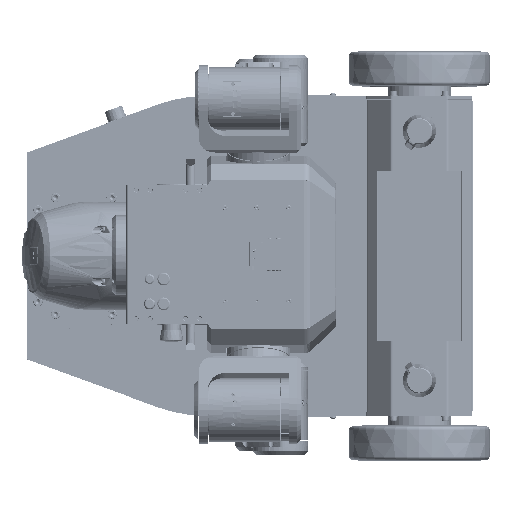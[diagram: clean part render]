
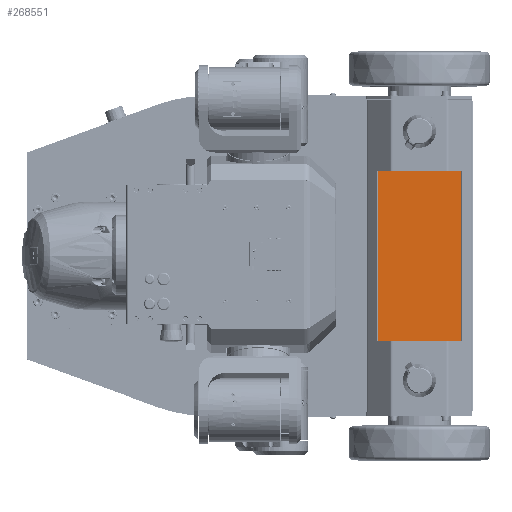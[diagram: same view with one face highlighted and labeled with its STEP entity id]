
A CAD part, top view. The second image highlights one B-rep face of the part: STEP entity #268551.
In plain terms, the highlighted planar face has unit normal (0, 0, 1).
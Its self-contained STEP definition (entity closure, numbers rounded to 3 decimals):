
#11955=PLANE('',#287177);
#22137=FACE_OUTER_BOUND('',#37791,.T.);
#37791=EDGE_LOOP('',(#181497,#181498,#181499,#181500));
#53520=LINE('',#423826,#74377);
#53521=LINE('',#423828,#74378);
#53536=LINE('',#423869,#74393);
#55496=LINE('',#437118,#76353);
#74377=VECTOR('',#313121,1.);
#74378=VECTOR('',#313124,1.);
#74393=VECTOR('',#313159,1.);
#76353=VECTOR('',#320185,1.);
#107483=VERTEX_POINT('',#423790);
#107488=VERTEX_POINT('',#423800);
#107491=VERTEX_POINT('',#423807);
#107492=VERTEX_POINT('',#423810);
#133649=EDGE_CURVE('',#107483,#107491,#53520,.T.);
#133650=EDGE_CURVE('',#107488,#107492,#53521,.T.);
#133671=EDGE_CURVE('',#107492,#107491,#53536,.T.);
#137316=EDGE_CURVE('',#107483,#107488,#55496,.T.);
#181497=ORIENTED_EDGE('',*,*,#133671,.F.);
#181498=ORIENTED_EDGE('',*,*,#133650,.F.);
#181499=ORIENTED_EDGE('',*,*,#137316,.F.);
#181500=ORIENTED_EDGE('',*,*,#133649,.T.);
#268551=ADVANCED_FACE('',(#22137),#11955,.F.);
#287177=AXIS2_PLACEMENT_3D('',#437659,#320323,#320324);
#313121=DIRECTION('',(0.,1.,0.));
#313124=DIRECTION('',(0.,1.,0.));
#313159=DIRECTION('',(1.,0.,0.));
#320185=DIRECTION('',(-1.,0.,0.));
#320323=DIRECTION('center_axis',(0.,0.,
-1.));
#320324=DIRECTION('ref_axis',(0.,-1.,0.));
#423790=CARTESIAN_POINT('',(534.149,-120.5,-89.349));
#423800=CARTESIAN_POINT('',(415.851,-120.5,-89.349));
#423807=CARTESIAN_POINT('',(534.148,120.5,-89.349));
#423810=CARTESIAN_POINT('',(415.852,120.5,-89.349));
#423826=CARTESIAN_POINT('',(534.149,-60.25,-89.349));
#423828=CARTESIAN_POINT('',(415.851,-60.25,-89.349));
#423869=CARTESIAN_POINT('',(474.999,120.5,-89.349));
#437118=CARTESIAN_POINT('',(474.999,-120.5,-89.349));
#437659=CARTESIAN_POINT('Origin',(474.999,0.,
-89.349));
